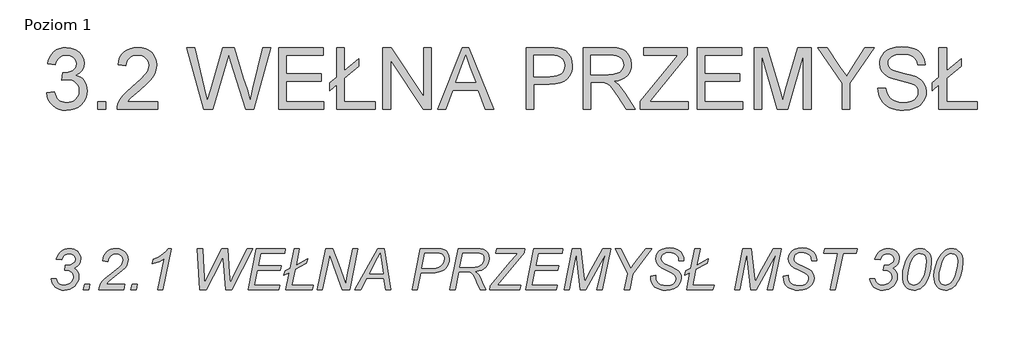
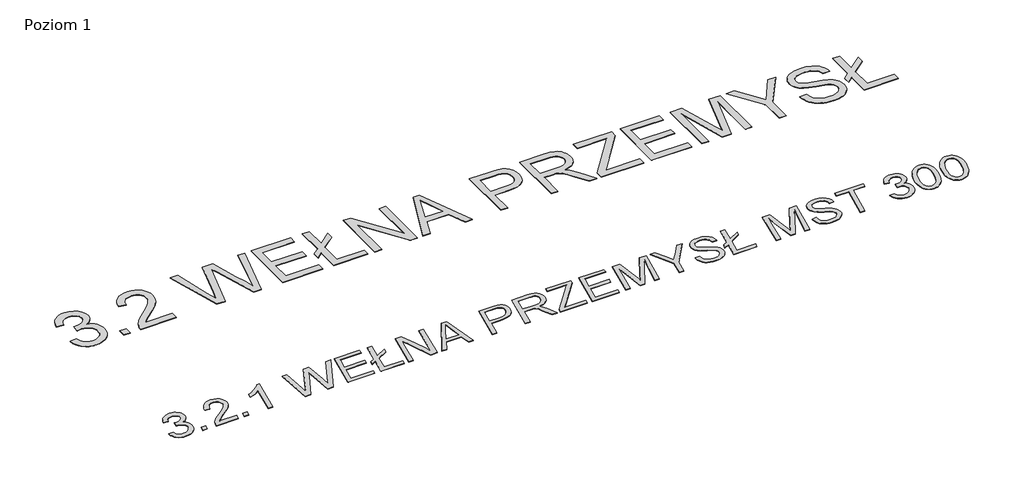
# One storey, part 2 of 8: 2 proxies.
"""IFC4 building model written with IfcOpenShell, lengths in millimetres."""

import ifcopenshell
import ifcopenshell.guid

model = None  # the IFC model being written
_history = None  # IfcOwnerHistory: only IFC2X3 demands one
_inside = {}  # id of a spatial element -> (the spatial element, [elements in it])
_under = {}  # id of a project, library or spatial element -> (it, [spatial elements below it])
_declared = {}  # id of a project -> (the project, [libraries it declares])
_typed = {}  # id of a type object -> (the type object, [elements of that type])
_made_of = {}  # id of a material, layer set ... -> (it, [elements and type objects made of it])


def new_model(schema):
    """Start an empty IFC model of exactly this schema.

    Asked for "IFC4X3", IfcOpenShell would pick the latest addendum, in which some entities
    have other attributes; the version numbers below select the first issue.
    IFC2X3 requires an IfcOwnerHistory on every rooted entity: one is made here for all.
    """
    global model, _history
    if schema == "IFC4X3":
        model = ifcopenshell.file(schema_version=(4, 3, 0, 0))
    else:
        model = ifcopenshell.file(schema=schema)
    _inside.clear()
    _under.clear()
    _declared.clear()
    _typed.clear()
    _made_of.clear()
    _history = None
    if model.schema == "IFC2X3":
        org = make("IfcOrganization", Name="unknown")
        user = make(
            "IfcPersonAndOrganization",
            ThePerson=make("IfcPerson", FamilyName="unknown"),
            TheOrganization=org,
        )
        app = make(
            "IfcApplication",
            ApplicationDeveloper=org,
            Version="unknown",
            ApplicationFullName="unknown",
            ApplicationIdentifier="unknown",
        )
        _history = make(
            "IfcOwnerHistory",
            OwningUser=user,
            OwningApplication=app,
            ChangeAction="ADDED",
            CreationDate=0,
        )
    return model


def make(cls, **values):
    """One entity of the class cls with the attributes given. An attribute that is None is left unset."""
    return model.create_entity(
        cls, **{name: value for name, value in values.items() if value is not None}
    )


def rooted(cls, **values):
    """An entity with a GlobalId (a new one), such as an element, a storey or a relation."""
    return make(cls, GlobalId=ifcopenshell.guid.new(), OwnerHistory=_history, **values)


def si_unit(unit_type, name, prefix=None):
    """IfcSIUnit, for example si_unit("LENGTHUNIT", "METRE", prefix="MILLI")."""
    return make("IfcSIUnit", UnitType=unit_type, Prefix=prefix, Name=name)


def assignment(units):
    """IfcUnitAssignment: the units of a project."""
    return None if units is None else make("IfcUnitAssignment", Units=units)


def point(xyz):
    """IfcCartesianPoint."""
    return None if xyz is None else make("IfcCartesianPoint", Coordinates=xyz)


def direction(xyz):
    """IfcDirection."""
    return None if xyz is None else make("IfcDirection", DirectionRatios=xyz)


def frame(location, z_axis=None, x_axis=None):
    """IfcAxis2Placement3D, a coordinate frame: its origin and axes. An axis left out is left unset."""
    return make(
        "IfcAxis2Placement3D",
        Location=point(location),
        Axis=direction(z_axis),
        RefDirection=direction(x_axis),
    )


def origin():
    """The frame at (0, 0, 0) with its axes left unset."""
    return frame((0.0, 0.0, 0.0))


def origin_with_axes():
    """The frame at (0, 0, 0) with the z axis (0, 0, 1) and the x axis (1, 0, 0) written out."""
    return frame((0.0, 0.0, 0.0), z_axis=(0.0, 0.0, 1.0), x_axis=(1.0, 0.0, 0.0))


def place(relative_to, where):
    """IfcLocalPlacement: puts the frame where relative to a parent placement (None: the world)."""
    return make(
        "IfcLocalPlacement", PlacementRelTo=relative_to, RelativePlacement=where
    )


def context(
    kind, dimensions, precision=None, world=None, true_north=None, identifier=None
):
    """IfcGeometricRepresentationContext, for example the 3D "Model" context."""
    return make(
        "IfcGeometricRepresentationContext",
        ContextIdentifier=identifier,
        ContextType=kind,
        CoordinateSpaceDimension=dimensions,
        Precision=precision,
        WorldCoordinateSystem=world,
        TrueNorth=true_north,
    )


def project(units=None, contexts=None):
    """IfcProject with its units and contexts."""
    return rooted(
        "IfcProject",
        Name="project",
        RepresentationContexts=contexts,
        UnitsInContext=assignment(units),
    )


def spatial(cls, under=None, at=None, **own):
    """A site, building, storey or space (cls), placed at a placement, below another one or the project."""
    s = rooted(cls, ObjectPlacement=at, **own)
    if under is not None:
        _under.setdefault(under.id(), (under, []))[1].append(s)
    return s


def polyline(points):
    """IfcPolyline through the points."""
    return make("IfcPolyline", Points=[point(p) for p in points])


def outline(outer, holes=None, kind="AREA"):
    """IfcArbitraryClosedProfileDef: a profile drawn as a closed curve; with holes, ...WithVoids."""
    if holes is None:
        return make("IfcArbitraryClosedProfileDef", ProfileType=kind, OuterCurve=outer)
    return make(
        "IfcArbitraryProfileDefWithVoids",
        ProfileType=kind,
        OuterCurve=outer,
        InnerCurves=holes,
    )


def extrude(swept, where, along, depth):
    """IfcExtrudedAreaSolid: the profile swept, set in the frame where, extruded along a direction by depth."""
    return make(
        "IfcExtrudedAreaSolid",
        SweptArea=swept,
        Position=where,
        ExtrudedDirection=direction(along),
        Depth=depth,
    )


def shape(context_of_items, identifier, shape_type, items):
    """IfcShapeRepresentation: the items that make up one representation, for example the "Body"."""
    return make(
        "IfcShapeRepresentation",
        ContextOfItems=context_of_items,
        RepresentationIdentifier=identifier,
        RepresentationType=shape_type,
        Items=items,
    )


def made_of(thing, what):
    """Note that an element or type object is made of a material, layer set ...; save() writes the relation."""
    if what is not None:
        _made_of.setdefault(what.id(), (what, []))[1].append(thing)
    return thing


def element(
    cls,
    number,
    at=None,
    inside=None,
    cuts=None,
    type_object=None,
    material=None,
    context=None,
    identifier="Body",
    shape_type=None,
    held_by="IfcProductDefinitionShape",
    body=None,
    shapes=None,
    **own,
):
    """One element of the class cls, such as IfcWall. Its Tag is "e" and its number.

    at: its placement. inside: the storey or other place that contains it. cuts: it is an
    opening in that element (IfcRelVoidsElement). A single representation is given by context,
    identifier, shape_type and body (its items); several are given by shapes. held_by: the class
    of the entity that holds the representations. save() writes the other relations.
    """
    e = rooted(cls, Tag="e%d" % number, ObjectPlacement=at, **own)
    if body is not None:
        shapes = [shape(context, identifier, shape_type, body)]
    if shapes is not None:
        e.Representation = make(held_by, Representations=shapes)
    if inside is not None:
        _inside.setdefault(inside.id(), (inside, []))[1].append(e)
    if cuts is not None:
        rooted(
            "IfcRelVoidsElement", RelatingBuildingElement=cuts, RelatedOpeningElement=e
        )
    if type_object is not None:
        _typed.setdefault(type_object.id(), (type_object, []))[1].append(e)
    return made_of(e, material)


def aggregate(whole, parts):
    """IfcRelAggregates: a whole, such as a stair, and the parts it consists of."""
    return rooted("IfcRelAggregates", RelatingObject=whole, RelatedObjects=parts)


def save(model, path):
    """Write the relations noted so far, then the file.

    IfcRelAggregates (storeys below a building ...), IfcRelContainedInSpatialStructure (elements
    in a storey), IfcRelDefinesByType, IfcRelAssociatesMaterial and IfcRelDeclares: one each for
    every whole, place, type object, material and project.
    """
    for whole, parts in _under.values():
        aggregate(whole, parts)
    for where, things in _inside.values():
        rooted(
            "IfcRelContainedInSpatialStructure",
            RelatedElements=things,
            RelatingStructure=where,
        )
    for kind, things in _typed.values():
        rooted("IfcRelDefinesByType", RelatedObjects=things, RelatingType=kind)
    for what, things in _made_of.values():
        rooted("IfcRelAssociatesMaterial", RelatedObjects=things, RelatingMaterial=what)
    for by, libraries in _declared.values():
        rooted("IfcRelDeclares", RelatingContext=by, RelatedDefinitions=libraries)
    model.write(path)


model = new_model("IFC4")

# Units and contexts
model_context = context("Model", 3, world=origin())
ifc_project = project(units=[si_unit("LENGTHUNIT", "METRE", prefix="MILLI")], contexts=[model_context])

# Site, building, storey
site = spatial("IfcSite", under=ifc_project)
building = spatial("IfcBuilding", under=site)
storey = spatial("IfcBuildingStorey", under=building, Name="Poziom 1", Elevation=0.0)

# Proxies
placement = place(None, origin())
element("IfcBuildingElementProxy", 1, Name="400 mm Arial", ObjectType="400 mm Arial", at=placement, inside=storey, context=model_context, shape_type="SweptSolid", body=[
    extrude(outline(polyline([(-15064.6188022, 3434.5109693), (-15015.6491052, 3434.5109693), (-15006.7542189, 3406.3557846), (-14991.1642568, 3387.501973), (-14969.2617946, 3376.8496293), (-14941.4294083, 3373.298848), (-14906.8541242, 3379.2765943), (-14891.4674054, 3386.748777), (-14877.3479689, 3397.2098329), (-14865.5478979, 3409.6017008), (-14857.1192757, 3422.8663196), (-14852.0621024, 3437.0036894), (-14850.376378, 3452.0138102), (-14855.2303079, 3476.6301691), (-14869.7920977, 3496.536064), (-14892.5314443, 3509.6990611), (-14921.9180446, 3514.0867268), (-14937.3167189, 3514.0867268), (-14929.0913401, 3563.9172193), (-14915.7968325, 3563.0564238), (-14879.559735, 3567.2169352), (-14853.2935181, 3579.6984693), (-14837.3329357, 3598.2294825), (-14832.0127416, 3620.5384314), (-14836.5319177, 3641.0540564), (-14850.0894461, 3658.0308556), (-14870.1985844, 3669.4363954), (-14894.3725901, 3673.238242), (-14918.6422397, 3669.3527069), (-14940.3773249, 3657.6961018), (-14957.1867473, 3638.9379342), (-14966.6794083, 3613.7477117), (-15015.6491052, 3621.6861587), (-15008.4070657, 3644.3328502), (-14998.4451516, 3664.2596672), (-14985.7633631, 3681.4666096), (-14970.3616999, 3695.9536776), (-14952.8319592, 3707.4399169), (-14933.7659376, 3715.6443736), (-14913.1636353, 3720.5670476), (-14891.0250522, 3722.207939), (-14868.0675179, 3720.4564593), (-14847.3994604, 3715.2020204), (-14829.0208796, 3706.4446222), (-14812.9317757, 3694.1842647), (-14799.8554559, 3679.3714096), (-14790.5152274, 3662.9565185), (-14784.9110903, 3644.9395914), (-14783.0430446, 3625.3206283), (-14787.0003126, 3597.3806426), (-14798.8721166, 3573.2425033), (-14818.8019225, 3552.9062107), (-14846.9331961, 3536.3717647), (-14826.8957908, 3520.961135), (-14812.6926658, 3502.6572761), (-14804.2281772, 3481.484099), (-14801.406681, 3457.4655147), (-14803.9382565, 3431.3905857), (-14811.5329831, 3407.1089806), (-14824.1908607, 3384.6206994), (-14841.9118893, 3363.925742), (-14863.1538105, 3346.6022335), (-14886.3743657, 3334.2282988), (-14911.5735548, 3326.803938), (-14938.751378, 3324.3291511), (-14964.7904405, 3326.2061634), (-14988.1992946, 3331.8372003), (-15008.9779405, 3341.2222619), (-15027.126378, 3354.361348), (-15042.0946545, 3370.6327732), (-15053.3328174, 3389.4148518), (-15060.8408666, 3410.7075838), (-15064.6188022, 3434.5109693)])), origin_with_axes(), (0.0, 0.0, 1.0), 5.0),
    extrude(outline(polyline([(-14757.7930446, 3330.4503632), (-14746.3157719, 3379.4200602), (-14697.3460749, 3379.4200602), (-14707.8669083, 3330.4503632), (-14757.7930446, 3330.4503632)])), origin_with_axes(), (0.0, 0.0, 1.0), 5.0),
    extrude(outline(polyline([(-14611.6491052, 3330.4503632), (-14602.5270645, 3362.7062818), (-14590.4639727, 3389.2713859), (-14574.7066336, 3412.3813528), (-14554.5018515, 3434.2718594), (-14468.1831961, 3502.8963859), (-14415.1008098, 3545.1710071), (-14397.430592, 3564.7062818), (-14385.3555446, 3583.9068026), (-14380.6211696, 3597.392598), (-14379.0430446, 3612.0261208), (-14383.932841, 3635.6382183), (-14398.6022302, 3655.4006473), (-14420.3970929, 3668.7788433), (-14446.6633098, 3673.238242), (-14473.0251706, 3668.7190658), (-14495.8721166, 3655.1615374), (-14513.9368657, 3631.6092174), (-14525.9521355, 3597.1056662), (-14574.9218325, 3603.6094541), (-14569.6763602, 3629.6963386), (-14561.0175948, 3652.8660829), (-14548.9455363, 3673.1186871), (-14533.4601848, 3690.4541511), (-14515.2131145, 3704.3464333), (-14494.8558997, 3714.269492), (-14472.3885406, 3720.2233272), (-14447.8110371, 3722.207939), (-14415.1844982, 3718.6810687), (-14385.7859424, 3708.1004579), (-14361.4565153, 3691.1475696), (-14344.0373628, 3668.503867), (-14333.5643515, 3642.5963149), (-14330.0733477, 3615.8518783), (-14331.8427605, 3596.238893), (-14337.1509992, 3576.996528), (-14345.9980636, 3558.1247832), (-14358.3839537, 3539.6236587), (-14392.672306, 3508.0611587), (-14460.7229689, 3455.8395677), (-14515.0009045, 3411.8433556), (-14541.8290295, 3379.4200602), (-14360.6794083, 3379.4200602), (-14370.3394461, 3330.4503632), (-14611.6491052, 3330.4503632)])), origin_with_axes(), (0.0, 0.0, 1.0), 5.0),
    extrude(outline(polyline([(-14304.8233477, 3330.4503632), (-14293.3460749, 3379.4200602), (-14244.376378, 3379.4200602), (-14254.8972113, 3330.4503632), (-14304.8233477, 3330.4503632)])), origin_with_axes(), (0.0, 0.0, 1.0), 5.0),
    extrude(outline(polyline([(-14048.4975901, 3330.4503632), (-13987.2854689, 3625.6075602), (-14009.2536862, 3610.6990611), (-14035.2748155, 3597.3447761), (-14099.4758098, 3575.298848), (-14090.4852795, 3618.1473329), (-14054.7742236, 3634.7774229), (-14019.5652984, 3655.783223), (-13966.626378, 3696.2884314), (-13945.8716431, 3722.207939), (-13917.2741052, 3722.207939), (-13998.6670977, 3330.4503632), (-14048.4975901, 3330.4503632)])), origin_with_axes(), (0.0, 0.0, 1.0), 5.0),
    extrude(outline(polyline([(-13644.4975901, 3330.4503632), (-13668.9824386, 3722.207939), (-13620.0127416, 3722.207939), (-13608.8224007, 3527.0943026), (-13604.5184234, 3452.205098), (-13603.1794083, 3428.1984693), (-13598.5884992, 3397.7836965), (-13553.157628, 3497.3490374), (-13438.3849007, 3722.207939), (-13381.2854689, 3722.207939), (-13363.9739158, 3492.5668405), (-13353.7400143, 3397.7836965), (-13338.2456961, 3435.3717647), (-13307.6396355, 3496.392598), (-13194.0146355, 3722.207939), (-13139.4975901, 3722.207939), (-13343.4104689, 3330.4503632), (-13399.6491052, 3330.4503632), (-13418.2040295, 3566.7865374), (-13427.1945598, 3642.6321814), (-13453.1140674, 3585.6283935), (-13583.5724007, 3330.4503632), (-13644.4975901, 3330.4503632)])), origin_with_axes(), (0.0, 0.0, 1.0), 5.0),
    extrude(outline(polyline([(-13185.406681, 3330.4503632), (-13105.8309234, 3722.207939), (-12830.376378, 3722.207939), (-12836.593234, 3679.3594541), (-13064.7996734, 3679.3594541), (-13089.6670977, 3556.9352117), (-12867.1036507, 3556.9352117), (-12879.3460749, 3514.0867268), (-13098.3706961, 3514.0867268), (-13126.968234, 3373.298848), (-12881.4502416, 3373.298848), (-12890.6320598, 3330.4503632), (-13185.406681, 3330.4503632)])), origin_with_axes(), (0.0, 0.0, 1.0), 5.0),
    extrude(outline(polyline([(-12791.2580068, 3493.0450602), (-12842.6188022, 3465.1170299), (-12830.376378, 3507.9655147), (-12782.936984, 3533.7893783), (-12744.6794083, 3722.207939), (-12694.9445598, 3722.207939), (-12727.0809234, 3564.0128632), (-12616.1339537, 3624.268545), (-12628.376378, 3581.4200602), (-12735.3063022, 3523.364189), (-12765.8167189, 3373.298848), (-12561.0430446, 3373.298848), (-12573.2854689, 3330.4503632), (-12824.2551658, 3330.4503632), (-12791.2580068, 3493.0450602)])), origin_with_axes(), (0.0, 0.0, 1.0), 5.0),
    extrude(outline(polyline([(-12524.3157719, 3330.4503632), (-12444.7400143, 3722.207939), (-12377.406681, 3722.207939), (-12318.1074386, 3570.612295), (-12275.0676658, 3453.831045), (-12253.9303552, 3379.4200602), (-12232.3148249, 3490.5583177), (-12187.2665295, 3722.207939), (-12137.6273249, 3722.207939), (-12213.7599007, 3330.4503632), (-12286.0667189, 3330.4503632), (-12367.0771355, 3555.5005526), (-12406.5780825, 3665.0128632), (-12426.1850901, 3568.3168405), (-12474.5809234, 3330.4503632), (-12524.3157719, 3330.4503632)])), origin_with_axes(), (0.0, 0.0, 1.0), 5.0),
    extrude(outline(polyline([(-12165.3640674, 3330.4503632), (-11946.1481583, 3722.207939), (-11884.1708855, 3722.207939), (-11822.4805446, 3330.4503632), (-11871.9284613, 3330.4503632), (-11887.6140674, 3440.6321814), (-12050.686984, 3440.6321814), (-12110.4644461, 3330.4503632), (-12165.3640674, 3330.4503632)]), holes=[polyline([(-12025.3413401, 3483.4806662), (-11893.6396355, 3483.4806662), (-11907.4123628, 3581.4200602), (-11921.376378, 3679.3594541), (-11964.5117946, 3599.7836965), (-12025.3413401, 3483.4806662)])]), origin_with_axes(), (0.0, 0.0, 1.0), 5.0),
    extrude(outline(polyline([(-11618.376378, 3330.4503632), (-11539.1831961, 3722.207939), (-11375.9189916, 3722.207939), (-11338.8330541, 3719.7690185), (-11312.3157719, 3712.4522571), (-11292.9239632, 3699.2294825), (-11277.2144461, 3679.0725223), (-11266.8131677, 3654.0138102), (-11263.3460749, 3626.0857799), (-11265.8208619, 3601.5889759), (-11273.2452227, 3576.6856852), (-11284.4475191, 3553.7789617), (-11298.2561128, 3535.2718594), (-11313.4634992, 3520.9730905), (-11328.8621734, 3510.691367), (-11362.0506204, 3498.4011208), (-11399.9495314, 3491.801689), (-11438.2788401, 3489.6018783), (-11536.4095219, 3489.6018783), (-11568.5458855, 3330.4503632), (-11618.376378, 3330.4503632)]), holes=[polyline([(-11527.7059234, 3532.4503632), (-11439.7134992, 3532.4503632), (-11395.3466668, 3535.1762155), (-11364.5851848, 3543.3537723), (-11343.0772539, 3557.1145441), (-11326.4710749, 3576.5900412), (-11315.8545977, 3599.6043641), (-11312.3157719, 3623.9816132), (-11314.2286507, 3641.5322761), (-11319.9672871, 3655.5441132), (-11329.1969272, 3666.172546), (-11341.5828174, 3673.5729958), (-11361.9549765, 3677.9128395), (-11395.1434234, 3679.3594541), (-11497.9606583, 3679.3594541), (-11527.7059234, 3532.4503632)])]), origin_with_axes(), (0.0, 0.0, 1.0), 5.0),
    extrude(outline(polyline([(-11257.2248628, 3330.4503632), (-11177.6491052, 3722.207939), (-11012.1850901, 3722.207939), (-10969.1333619, 3720.1276833), (-10937.9175711, 3713.8869162), (-10915.3456015, 3701.9075128), (-10898.2253363, 3682.611348), (-10887.4295266, 3656.6679295), (-10883.8309234, 3624.7467647), (-10885.7677132, 3601.349866), (-10891.5780825, 3580.033223), (-10901.2620314, 3560.7968357), (-10914.8195598, 3543.6407041), (-10932.6989987, 3528.9414262), (-10955.3486791, 3517.0755999), (-10982.768601, 3508.0432254), (-11014.9587643, 3501.8443026), (-10996.2364632, 3487.5216227), (-10982.7267568, 3473.4380526), (-10963.5740579, 3438.2171719), (-10948.5818704, 3401.800742), (-10914.532628, 3330.4503632), (-10967.9975901, 3330.4503632), (-11002.2381204, 3402.1833177), (-11017.3737738, 3438.5758367), (-11034.470128, 3469.707939), (-11048.0635229, 3486.0989191), (-11062.2546924, 3495.6752685), (-11081.2519698, 3500.3020441), (-11109.2636886, 3501.8443026), (-11172.6756204, 3501.8443026), (-11207.4900143, 3330.4503632), (-11257.2248628, 3330.4503632)]), holes=[polyline([(-11163.9720219, 3544.6927874), (-11088.8915295, 3544.6927874), (-11021.0799765, 3544.6927874), (-10994.120341, 3549.6662723), (-10972.5406772, 3558.4655147), (-10955.7671213, 3571.0307373), (-10943.2258098, 3587.3021624), (-10935.4069177, 3606.108152), (-10932.8006204, 3626.2770677), (-10934.7852321, 3642.7397808), (-10940.7390674, 3656.9309503), (-10949.9208855, 3667.8941369), (-10961.5894461, 3674.6729011), (-10979.0205541, 3678.1878158), (-11005.4900143, 3679.3594541), (-11136.6178552, 3679.3594541), (-11163.9720219, 3544.6927874)])]), origin_with_axes(), (0.0, 0.0, 1.0), 5.0),
    extrude(outline(polyline([(-10877.7097113, 3330.4503632), (-10871.5884992, 3367.1776359), (-10674.7532719, 3601.5052874), (-10633.8176658, 3649.9967647), (-10609.2371734, 3679.3594541), (-10644.3384992, 3679.3594541), (-10657.3460749, 3679.3594541), (-10673.031681, 3679.3594541), (-10688.4303552, 3679.3594541), (-10821.6623628, 3679.3594541), (-10812.3849007, 3722.207939), (-10541.0430446, 3722.207939), (-10546.1121734, 3681.176689), (-10756.624484, 3430.6852117), (-10804.8290295, 3373.298848), (-10789.9085749, 3373.298848), (-10580.2570598, 3373.298848), (-10589.5345219, 3330.4503632), (-10877.7097113, 3330.4503632)])), origin_with_axes(), (0.0, 0.0, 1.0), 5.0),
    extrude(outline(polyline([(-10534.9218325, 3330.4503632), (-10455.3460749, 3722.207939), (-10179.8915295, 3722.207939), (-10186.1083855, 3679.3594541), (-10414.3148249, 3679.3594541), (-10439.1822492, 3556.9352117), (-10216.6188022, 3556.9352117), (-10228.8612265, 3514.0867268), (-10447.8858477, 3514.0867268), (-10476.4833855, 3373.298848), (-10230.9653931, 3373.298848), (-10240.1472113, 3330.4503632), (-10534.9218325, 3330.4503632)])), origin_with_axes(), (0.0, 0.0, 1.0), 5.0),
    extrude(outline(polyline([(-10168.3186128, 3330.4503632), (-10091.8991052, 3722.207939), (-10008.4019461, 3722.207939), (-9978.7523249, 3468.9427874), (-9971.9616052, 3404.7657041), (-9932.0780825, 3482.8111587), (-9799.6112265, 3722.207939), (-9722.1396355, 3722.207939), (-9805.2542189, 3330.4503632), (-9855.4672871, 3330.4503632), (-9809.4625522, 3518.6776359), (-9794.2790768, 3590.6975223), (-9768.6225901, 3673.238242), (-9795.9289348, 3630.7484219), (-9819.313878, 3587.2543405), (-9961.5364158, 3330.4503632), (-10011.749484, 3330.4503632), (-10041.1121734, 3581.611348), (-10051.8242946, 3673.238242), (-10070.187931, 3578.8376738), (-10118.6794083, 3330.4503632), (-10168.3186128, 3330.4503632)])), origin_with_axes(), (0.0, 0.0, 1.0), 5.0),
    extrude(outline(polyline([(-9592.2551658, 3330.4503632), (-9561.8403931, 3480.4200602), (-9680.1519461, 3722.207939), (-9626.5913401, 3722.207939), (-9569.2049765, 3609.1568026), (-9532.4777037, 3529.9636208), (-9509.3557814, 3565.973564), (-9476.5259992, 3604.7571814), (-9388.6292189, 3722.207939), (-9329.4256204, 3722.207939), (-9512.9663401, 3476.4986587), (-9542.5203174, 3330.4503632), (-9592.2551658, 3330.4503632)])), origin_with_axes(), (0.0, 0.0, 1.0), 5.0),
    extrude(outline(polyline([(-9341.2854689, 3458.9958177), (-9292.3157719, 3465.1170299), (-9292.8896355, 3450.9617268), (-9290.3072492, 3428.5093121), (-9282.5600901, 3408.017598), (-9268.8590958, 3390.7180005), (-9248.4152037, 3377.8419352), (-9222.3761412, 3369.8437107), (-9191.8896355, 3367.1776359), (-9150.84643, 3372.3424087), (-9134.476372, 3378.7983746), (-9120.8740105, 3387.8367268), (-9102.5462407, 3409.9543878), (-9096.436984, 3434.989189), (-9099.641056, 3452.6594068), (-9109.2532719, 3468.7514996), (-9133.5468325, 3486.3499844), (-9180.4123628, 3509.3045299), (-9242.0070598, 3539.9105905), (-9264.4355636, 3557.987295), (-9280.0733477, 3577.5943026), (-9289.2551658, 3599.4250318), (-9292.3157719, 3624.1729011), (-9288.3345929, 3652.770439), (-9276.391056, 3678.4986587), (-9256.7840484, 3699.9109456), (-9229.8124575, 3715.5606852), (-9197.1859187, 3725.1370346), (-9160.6140674, 3728.3291511), (-9118.2198912, 3724.2284172), (-9083.0468325, 3711.9262155), (-9055.8122208, 3692.7854721), (-9037.2333855, 3668.1691132), (-9026.5451753, 3641.4366321), (-9022.9824386, 3615.9475223), (-9022.9824386, 3607.7221435), (-9071.9521355, 3603.6094541), (-9074.7258098, 3630.676689), (-9081.2893751, 3646.4459835), (-9090.6505257, 3659.5133367), (-9103.4189916, 3670.081992), (-9120.204503, 3678.3551927), (-9140.1103979, 3683.6992979), (-9162.2400143, 3685.4806662), (-9198.6325333, 3680.6506473), (-9213.4214774, 3674.6131236), (-9225.938878, 3666.1605905), (-9238.9942757, 3649.0164143), (-9243.3460749, 3627.0422193), (-9241.5407956, 3613.3651359), (-9236.1249575, 3601.2183556), (-9225.9986554, 3589.9323708), (-9210.061984, 3578.8376738), (-9146.4587643, 3548.1359693), (-9090.220128, 3518.8689238), (-9072.0238685, 3503.2311397), (-9058.561984, 3484.6283935), (-9050.2409613, 3463.1563291), (-9047.4672871, 3438.9105905), (-9052.1777511, 3408.4599513), (-9066.3091431, 3380.4243215), (-9088.7496024, 3356.6448471), (-9118.3872681, 3338.9626738), (-9154.026591, 3327.9875318), (-9194.4720219, 3324.3291511), (-9225.3560477, 3326.1583414), (-9253.2571782, 3331.6459124), (-9278.1754132, 3340.7918641), (-9300.110753, 3353.5961965), (-9318.0170917, 3371.1588149), (-9330.848324, 3394.5796246), (-9338.6044497, 3423.8586255), (-9341.2854689, 3458.9958177)])), origin_with_axes(), (0.0, 0.0, 1.0), 5.0),
    extrude(outline(polyline([(-8965.500431, 3493.0450602), (-9016.8612265, 3465.1170299), (-9004.6188022, 3507.9655147), (-8957.1794083, 3533.7893783), (-8918.9218325, 3722.207939), (-8869.186984, 3722.207939), (-8901.3233477, 3564.0128632), (-8790.376378, 3624.268545), (-8802.6188022, 3581.4200602), (-8909.5487265, 3523.364189), (-8940.0591431, 3373.298848), (-8735.2854689, 3373.298848), (-8747.5278931, 3330.4503632), (-8998.4975901, 3330.4503632), (-8965.500431, 3493.0450602)])), origin_with_axes(), (0.0, 0.0, 1.0), 5.0),
    extrude(outline(polyline([(-8540.0761886, 3330.4503632), (-8463.656681, 3722.207939), (-8380.1595219, 3722.207939), (-8350.5099007, 3468.9427874), (-8343.719181, 3404.7657041), (-8303.8356583, 3482.8111587), (-8171.3688022, 3722.207939), (-8093.8972113, 3722.207939), (-8177.0117946, 3330.4503632), (-8227.2248628, 3330.4503632), (-8181.220128, 3518.6776359), (-8166.0366526, 3590.6975223), (-8140.3801658, 3673.238242), (-8167.6865105, 3630.7484219), (-8191.0714537, 3587.2543405), (-8333.2939916, 3330.4503632), (-8383.5070598, 3330.4503632), (-8412.8697492, 3581.611348), (-8423.5818704, 3673.238242), (-8441.9455068, 3578.8376738), (-8490.436984, 3330.4503632), (-8540.0761886, 3330.4503632)])), origin_with_axes(), (0.0, 0.0, 1.0), 5.0),
    extrude(outline(polyline([(-8074.1945598, 3458.9958177), (-8025.2248628, 3465.1170299), (-8025.7987265, 3450.9617268), (-8023.2163401, 3428.5093121), (-8015.469181, 3408.017598), (-8001.7681867, 3390.7180005), (-7981.3242946, 3377.8419352), (-7955.2852321, 3369.8437107), (-7924.7987265, 3367.1776359), (-7883.755521, 3372.3424087), (-7867.385463, 3378.7983746), (-7853.7831015, 3387.8367268), (-7835.4553316, 3409.9543878), (-7829.3460749, 3434.989189), (-7832.5501469, 3452.6594068), (-7842.1623628, 3468.7514996), (-7866.4559234, 3486.3499844), (-7913.3214537, 3509.3045299), (-7974.9161507, 3539.9105905), (-7997.3446545, 3557.987295), (-8012.9824386, 3577.5943026), (-8022.1642568, 3599.4250318), (-8025.2248628, 3624.1729011), (-8021.2436838, 3652.770439), (-8009.3001469, 3678.4986587), (-7989.6931393, 3699.9109456), (-7962.7215484, 3715.5606852), (-7930.0950096, 3725.1370346), (-7893.5231583, 3728.3291511), (-7851.1289821, 3724.2284172), (-7815.9559234, 3711.9262155), (-7788.7213117, 3692.7854721), (-7770.1424765, 3668.1691132), (-7759.4542662, 3641.4366321), (-7755.8915295, 3615.9475223), (-7755.8915295, 3607.7221435), (-7804.8612265, 3603.6094541), (-7807.6349007, 3630.676689), (-7814.198466, 3646.4459835), (-7823.5596166, 3659.5133367), (-7836.3280825, 3670.081992), (-7853.1135939, 3678.3551927), (-7873.0194888, 3683.6992979), (-7895.1491052, 3685.4806662), (-7931.5416242, 3680.6506473), (-7946.3305683, 3674.6131236), (-7958.8479689, 3666.1605905), (-7971.9033666, 3649.0164143), (-7976.2551658, 3627.0422193), (-7974.4498865, 3613.3651359), (-7969.0340484, 3601.2183556), (-7958.9077463, 3589.9323708), (-7942.9710749, 3578.8376738), (-7879.3678552, 3548.1359693), (-7823.1292189, 3518.8689238), (-7804.9329594, 3503.2311397), (-7791.4710749, 3484.6283935), (-7783.1500522, 3463.1563291), (-7780.376378, 3438.9105905), (-7785.086842, 3408.4599513), (-7799.218234, 3380.4243215), (-7821.6586933, 3356.6448471), (-7851.296359, 3338.9626738), (-7886.9356819, 3327.9875318), (-7927.3811128, 3324.3291511), (-7958.2651386, 3326.1583414), (-7986.1662691, 3331.6459124), (-8011.0845041, 3340.7918641), (-8033.0198439, 3353.5961965), (-8050.9261827, 3371.1588149), (-8063.7574149, 3394.5796246), (-8071.5135406, 3423.8586255), (-8074.1945598, 3458.9958177)])), origin_with_axes(), (0.0, 0.0, 1.0), 5.0),
    extrude(outline(polyline([(-7627.3460749, 3330.4503632), (-7553.2220219, 3679.3594541), (-7688.5581961, 3679.3594541), (-7679.280734, 3722.207939), (-7367.1945598, 3722.207939), (-7376.4720219, 3679.3594541), (-7503.3915295, 3679.3594541), (-7577.5155825, 3330.4503632), (-7627.3460749, 3330.4503632)])), origin_with_axes(), (0.0, 0.0, 1.0), 5.0),
    extrude(outline(polyline([(-7247.8309234, 3434.5109693), (-7198.8612265, 3434.5109693), (-7189.9663401, 3406.3557846), (-7174.376378, 3387.501973), (-7152.4739158, 3376.8496293), (-7124.6415295, 3373.298848), (-7090.0662454, 3379.2765943), (-7074.6795266, 3386.748777), (-7060.5600901, 3397.2098329), (-7048.7600191, 3409.6017008), (-7040.3313969, 3422.8663196), (-7035.2742236, 3437.0036894), (-7033.5884992, 3452.0138102), (-7038.4424291, 3476.6301691), (-7053.0042189, 3496.536064), (-7075.7435655, 3509.6990611), (-7105.1301658, 3514.0867268), (-7120.5288401, 3514.0867268), (-7112.3034613, 3563.9172193), (-7099.0089537, 3563.0564238), (-7062.7718562, 3567.2169352), (-7036.5056393, 3579.6984693), (-7020.5450569, 3598.2294825), (-7015.2248628, 3620.5384314), (-7019.744039, 3641.0540564), (-7033.3015674, 3658.0308556), (-7053.4107056, 3669.4363954), (-7077.5847113, 3673.238242), (-7101.8543609, 3669.3527069), (-7123.5894461, 3657.6961018), (-7140.3988685, 3638.9379342), (-7149.8915295, 3613.7477117), (-7198.8612265, 3621.6861587), (-7191.6191869, 3644.3328502), (-7181.6572729, 3664.2596672), (-7168.9754843, 3681.4666096), (-7153.5738211, 3695.9536776), (-7136.0440804, 3707.4399169), (-7116.9780588, 3715.6443736), (-7096.3757565, 3720.5670476), (-7074.2371734, 3722.207939), (-7051.2796391, 3720.4564593), (-7030.6115816, 3715.2020204), (-7012.2330008, 3706.4446222), (-6996.1438969, 3694.1842647), (-6983.0675771, 3679.3714096), (-6973.7273486, 3662.9565185), (-6968.1232115, 3644.9395914), (-6966.2551658, 3625.3206283), (-6970.2124338, 3597.3806426), (-6982.0842378, 3573.2425033), (-7002.0140437, 3552.9062107), (-7030.1453174, 3536.3717647), (-7010.1079121, 3520.961135), (-6995.9047871, 3502.6572761), (-6987.4402984, 3481.484099), (-6984.6188022, 3457.4655147), (-6987.1503777, 3431.3905857), (-6994.7451043, 3407.1089806), (-7007.4029819, 3384.6206994), (-7025.1240105, 3363.925742), (-7046.3659317, 3346.6022335), (-7069.5864869, 3334.2282988), (-7094.785676, 3326.803938), (-7121.9634992, 3324.3291511), (-7148.0025617, 3326.2061634), (-7171.4114158, 3331.8372003), (-7192.1900617, 3341.2222619), (-7210.3384992, 3354.361348), (-7225.3067757, 3370.6327732), (-7236.5449386, 3389.4148518), (-7244.0529878, 3410.7075838), (-7247.8309234, 3434.5109693)])), origin_with_axes(), (0.0, 0.0, 1.0), 5.0),
    extrude(outline(polyline([(-6935.6491052, 3458.8045299), (-6931.8711696, 3508.6469778), (-6920.5373628, 3559.2784882), (-6904.5887359, 3605.1875791), (-6886.9663401, 3640.8627685), (-6868.1603505, 3668.0973802), (-6848.6609424, 3688.6847382), (-6828.9822018, 3703.6649702), (-6809.6382151, 3714.0782041), (-6789.3975664, 3720.1755052), (-6767.0288401, 3722.207939), (-6745.1562667, 3720.1306721), (-6725.1607056, 3713.8988717), (-6707.0421568, 3703.5125377), (-6690.8006204, 3688.97167), (-6677.4104689, 3670.5094008), (-6667.8460749, 3648.3588623), (-6662.1074386, 3622.5200542), (-6660.1945598, 3592.9929768), (-6665.5027984, 3528.7680715), (-6681.4275143, 3465.2126738), (-6695.1404641, 3430.0635261), (-6711.3162454, 3399.6009314), (-6729.9548581, 3373.8248897), (-6751.0563022, 3352.7354011), (-6768.774342, 3340.3076667), (-6787.687931, 3331.4307136), (-6807.7970693, 3326.1045417), (-6829.1017568, 3324.3291511), (-6850.6545207, 3326.4811397), (-6870.455805, 3332.9371056), (-6888.5056097, 3343.6970488), (-6904.8039348, 3358.7609693), (-6918.2986969, 3377.9256236), (-6927.9378126, 3400.9877685), (-6933.7212821, 3427.9474039), (-6935.6491052, 3458.8045299)]), holes=[polyline([(-6886.6794083, 3451.7268783), (-6883.6905352, 3421.9098802), (-6874.7239158, 3399.4096435), (-6865.6078529, 3387.9861705), (-6854.5191336, 3379.8265469), (-6841.4577582, 3374.9307728), (-6826.4237265, 3373.298848), (-6799.7390674, 3379.2048613), (-6775.5411507, 3396.9229011), (-6760.0229215, 3415.4569032), (-6746.5610371, 3437.8704626), (-6735.1554973, 3464.1635793), (-6725.8063022, 3494.3362533), (-6713.3247681, 3552.6671009), (-6709.1642568, 3599.2098329), (-6713.1932577, 3633.031921), (-6725.2802605, 3655.878867), (-6743.9666952, 3668.8983982), (-6767.7939916, 3673.238242), (-6786.3728268, 3670.9427874), (-6803.6604689, 3664.0564238), (-6819.9438496, 3651.5748897), (-6835.5099007, 3632.4939238), (-6855.7146829, 3593.1842647), (-6873.0979689, 3538.1889996), (-6883.2840484, 3489.7453443), (-6886.6794083, 3451.7268783)])]), origin_with_axes(), (0.0, 0.0, 1.0), 5.0),
    extrude(outline(polyline([(-6635.7097113, 3458.8045299), (-6631.9317757, 3508.6469778), (-6620.5979689, 3559.2784882), (-6604.649342, 3605.1875791), (-6587.0269461, 3640.8627685), (-6568.2209566, 3668.0973802), (-6548.7215484, 3688.6847382), (-6529.0428079, 3703.6649702), (-6509.6988211, 3714.0782041), (-6489.4581725, 3720.1755052), (-6467.0894461, 3722.207939), (-6445.2168728, 3720.1306721), (-6425.2213117, 3713.8988717), (-6407.1027629, 3703.5125377), (-6390.8612265, 3688.97167), (-6377.4710749, 3670.5094008), (-6367.906681, 3648.3588623), (-6362.1680446, 3622.5200542), (-6360.2551658, 3592.9929768), (-6365.5634045, 3528.7680715), (-6381.4881204, 3465.2126738), (-6395.2010702, 3430.0635261), (-6411.3768515, 3399.6009314), (-6430.0154641, 3373.8248897), (-6451.1169083, 3352.7354011), (-6468.834948, 3340.3076667), (-6487.7485371, 3331.4307136), (-6507.8576753, 3326.1045417), (-6529.1623628, 3324.3291511), (-6550.7151268, 3326.4811397), (-6570.5164111, 3332.9371056), (-6588.5662158, 3343.6970488), (-6604.8645408, 3358.7609693), (-6618.3593029, 3377.9256236), (-6627.9984187, 3400.9877685), (-6633.7818881, 3427.9474039), (-6635.7097113, 3458.8045299)]), holes=[polyline([(-6586.7400143, 3451.7268783), (-6583.7511412, 3421.9098802), (-6574.7845219, 3399.4096435), (-6565.6684589, 3387.9861705), (-6554.5797397, 3379.8265469), (-6541.5183642, 3374.9307728), (-6526.4843325, 3373.298848), (-6499.7996734, 3379.2048613), (-6475.6017568, 3396.9229011), (-6460.0835276, 3415.4569032), (-6446.6216431, 3437.8704626), (-6435.2161033, 3464.1635793), (-6425.8669083, 3494.3362533), (-6413.3853742, 3552.6671009), (-6409.2248628, 3599.2098329), (-6413.2538638, 3633.031921), (-6425.3408666, 3655.878867), (-6444.0273013, 3668.8983982), (-6467.8545977, 3673.238242), (-6486.4334329, 3670.9427874), (-6503.7210749, 3664.0564238), (-6520.0044556, 3651.5748897), (-6535.5705068, 3632.4939238), (-6555.775289, 3593.1842647), (-6573.1585749, 3538.1889996), (-6583.3446545, 3489.7453443), (-6586.7400143, 3451.7268783)])]), origin_with_axes(), (0.0, 0.0, 1.0), 5.0),
])
element("IfcBuildingElementProxy", 2, Name="600 mm Arial", ObjectType="600 mm Arial", at=placement, inside=storey, context=model_context, shape_type="SweptSolid", body=[
    extrude(outline(polyline([(-15109.6367066, 5208.1027492), (-15035.7905528, 5217.3335184), (-15019.2581009, 5170.9272684), (-15008.1117667, 5153.3761867), (-14995.0453605, 5139.5931338), (-14979.7614062, 5129.1814751), (-14961.9624278, 5121.7445761), (-14941.6484254, 5117.2824367), (-14918.8193989, 5115.7950569), (-14892.0645913, 5117.8413309), (-14868.1943989, 5123.980153), (-14847.208822, 5134.2115232), (-14829.1078605, 5148.5354415), (-14814.5315384, 5165.8791915), (-14804.1198797, 5185.1700569), (-14797.8728845, 5206.4080376), (-14795.7905528, 5229.5931338), (-14797.8548557, 5251.6739631), (-14804.0477643, 5271.7626049), (-14814.3692788, 5289.8590593), (-14828.8193989, 5305.9633261), (-14846.4516105, 5319.1829775), (-14866.3193989, 5328.6255857), (-14888.4227643, 5334.2911506), (-14912.7617066, 5336.1796723), (-14936.0910336, 5334.1604415), (-14964.5405528, 5328.1027492), (-14956.3193989, 5401.948903), (-14944.4924759, 5401.0835184), (-14900.2496874, 5406.3839992), (-14860.6943989, 5422.2854415), (-14844.4143509, 5434.3106819), (-14832.7857451, 5449.1844799), (-14825.8085816, 5466.9068357), (-14823.4828605, 5487.4777492), (-14825.1685576, 5504.1769679), (-14830.2256489, 5519.370778), (-14838.6541345, 5533.0591795), (-14850.4540143, 5545.2421723), (-14864.9131489, 5555.2436747), (-14881.3193989, 5562.3876049), (-14919.9732451, 5568.1027492), (-14958.6992066, 5562.3335184), (-14975.411947, 5555.1219799), (-14990.3578605, 5545.0258261), (-15003.1673557, 5532.0450569), (-15013.4708413, 5516.1796723), (-15021.2683172, 5497.4296723), (-15026.5597836, 5475.7950569), (-15100.4059374, 5485.0258261), (-15091.6529326, 5520.2812348), (-15078.6631489, 5551.3359223), (-15061.4365864, 5578.1898886), (-15039.9732451, 5600.8431338), (-15014.9492066, 5618.8269078), (-14987.0405528, 5631.6724607), (-14956.2472836, 5639.3797924), (-14922.5693989, 5641.948903), (-14876.1451201, 5636.8827973), (-14833.5068989, 5621.6844799), (-14797.5573797, 5597.7061146), (-14771.1992066, 5566.2998646), (-14755.0273316, 5530.1159703), (-14749.6367066, 5491.8046723), (-14754.7568989, 5456.1075569), (-14770.1174759, 5423.7277492), (-14795.5020913, 5396.1436146), (-14830.6943989, 5374.8335184), (-14806.0850239, 5367.1352011), (-14784.4684374, 5356.1556338), (-14765.8446393, 5341.8948165), (-14750.2136297, 5324.3527492), (-14737.8458413, 5303.9621242), (-14729.0117066, 5281.1556338), (-14723.7112259, 5255.933278), (-14721.9443989, 5228.2950569), (-14725.4780528, 5190.8311146), (-14736.0790143, 5156.323903), (-14753.7472836, 5124.7734223), (-14778.4828605, 5096.1796723), (-14808.6180768, 5072.4537107), (-14842.4852643, 5055.5065953), (-14880.084423, 5045.3383261), (-14921.4155528, 5041.948903), (-14958.771322, 5044.8425328), (-14992.8097836, 5053.5234223), (-15023.5309374, 5067.9915713), (-15050.9347836, 5088.2469799), (-15073.912548, 5113.0997444), (-15091.3554566, 5141.3599607), (-15103.2635095, 5173.027629), (-15109.6367066, 5208.1027492)])), origin_with_axes(), (0.0, 0.0, 1.0), 5.0),
    extrude(outline(polyline([(-14620.4059374, 5051.1796723), (-14620.4059374, 5125.0258261), (-14546.5597836, 5125.0258261), (-14546.5597836, 5051.1796723), (-14620.4059374, 5051.1796723)])), origin_with_axes(), (0.0, 0.0, 1.0), 5.0),
    extrude(outline(polyline([(-14048.0982451, 5125.0258261), (-14048.0982451, 5051.1796723), (-14435.7905528, 5051.1796723), (-14434.1679566, 5077.1772684), (-14427.8578605, 5102.0931338), (-14409.6487259, 5141.8827973), (-14383.0020913, 5180.4825569), (-14344.4564182, 5220.8852011), (-14290.5501682, 5266.0835184), (-14210.8626682, 5336.8647684), (-14163.0501682, 5389.1123646), (-14149.1048557, 5410.4585184), (-14139.1439182, 5431.5162107), (-14133.1673557, 5452.2854415), (-14131.1751682, 5472.7662107), (-14133.0546754, 5492.03454), (-14138.693197, 5509.7433742), (-14148.0907331, 5525.8927131), (-14161.2472836, 5540.4825569), (-14177.4326802, 5552.566391), (-14195.9167547, 5561.1977011), (-14216.6995071, 5566.3764872), (-14239.7809374, 5568.1027492), (-14264.0973437, 5566.4170521), (-14285.8446393, 5561.3599607), (-14305.0228244, 5552.9314751), (-14321.6318989, 5541.1315953), (-14335.0678965, 5526.3569559), (-14344.7268509, 5509.0041915), (-14350.6087619, 5489.0733021), (-14352.7136297, 5466.5642876), (-14426.5597836, 5475.7950569), (-14420.2091225, 5513.9170521), (-14408.6571393, 5547.2253453), (-14391.903834, 5575.7199367), (-14369.9492066, 5599.4008261), (-14343.2980648, 5618.0156098), (-14312.4552163, 5631.3118838), (-14277.420661, 5639.2896482), (-14238.1943989, 5641.948903), (-14198.6165744, 5638.9921723), (-14163.3927163, 5630.1219799), (-14132.5228244, 5615.3383261), (-14106.0068989, 5594.6412107), (-14084.7103244, 5569.5630857), (-14069.4984855, 5541.636403), (-14060.3713821, 5510.8611626), (-14057.3290143, 5477.2373646), (-14060.6102643, 5441.9188549), (-14070.4540143, 5407.2133261), (-14087.9239663, 5371.9128453), (-14114.083822, 5334.8094799), (-14155.7845432, 5290.5126049), (-14219.8770913, 5233.6315953), (-14304.8290143, 5162.5979415), (-14338.146322, 5125.0258261), (-14048.0982451, 5125.0258261)])), origin_with_axes(), (0.0, 0.0, 1.0), 5.0),
    extrude(outline(polyline([(-13610.0693989, 5051.1796723), (-13771.1751682, 5641.948903), (-13695.021322, 5641.948903), (-13601.5597836, 5253.6796723), (-13572.7136297, 5133.823903), (-13541.8482451, 5239.8335184), (-13424.7328605, 5641.948903), (-13314.9732451, 5641.948903), (-13229.8770913, 5350.4585184), (-13193.4227643, 5242.2854415), (-13166.5597836, 5133.823903), (-13138.5790143, 5250.2181338), (-13044.2520913, 5641.948903), (-12968.0982451, 5641.948903), (-13129.3482451, 5051.1796723), (-13208.2424759, 5051.1796723), (-13349.8770913, 5506.948903), (-13369.6367066, 5570.5546723), (-13391.8482451, 5493.9681338), (-13520.9347836, 5051.1796723), (-13610.0693989, 5051.1796723)])), origin_with_axes(), (0.0, 0.0, 1.0), 5.0),
    extrude(outline(polyline([(-12894.2520913, 5051.1796723), (-12894.2520913, 5641.948903), (-12469.6367066, 5641.948903), (-12469.6367066, 5568.1027492), (-12820.4059374, 5568.1027492), (-12820.4059374, 5392.7181338), (-12488.0982451, 5392.7181338), (-12488.0982451, 5318.8719799), (-12820.4059374, 5318.8719799), (-12820.4059374, 5125.0258261), (-12460.4059374, 5125.0258261), (-12460.4059374, 5051.1796723), (-12894.2520913, 5051.1796723)])), origin_with_axes(), (0.0, 0.0, 1.0), 5.0),
    extrude(outline(polyline([(-12340.4059374, 5284.9777492), (-12405.021322, 5231.1796723), (-12405.021322, 5305.0258261), (-12340.4059374, 5358.823903), (-12340.4059374, 5641.948903), (-12266.5597836, 5641.948903), (-12266.5597836, 5420.4104415), (-12128.0982451, 5535.7950569), (-12128.0982451, 5461.948903), (-12266.5597836, 5346.5642876), (-12266.5597836, 5125.0258261), (-11971.1751682, 5125.0258261), (-11971.1751682, 5051.1796723), (-12340.4059374, 5051.1796723), (-12340.4059374, 5284.9777492)])), origin_with_axes(), (0.0, 0.0, 1.0), 5.0),
    extrude(outline(polyline([(-11897.3290143, 5051.1796723), (-11897.3290143, 5641.948903), (-11818.2905528, 5641.948903), (-11509.6367066, 5173.9200569), (-11509.6367066, 5641.948903), (-11435.7905528, 5641.948903), (-11435.7905528, 5051.1796723), (-11514.8290143, 5051.1796723), (-11823.4828605, 5519.3527492), (-11823.4828605, 5051.1796723), (-11897.3290143, 5051.1796723)])), origin_with_axes(), (0.0, 0.0, 1.0), 5.0),
    extrude(outline(polyline([(-11375.3578605, 5051.1796723), (-11139.5405528, 5641.948903), (-11076.6559374, 5641.948903), (-10840.8386297, 5051.1796723), (-10918.8674759, 5051.1796723), (-10986.5117066, 5235.7950569), (-11229.8290143, 5235.7950569), (-11297.3290143, 5051.1796723), (-11375.3578605, 5051.1796723)]), holes=[polyline([(-11202.7136297, 5309.6412107), (-11013.4828605, 5309.6412107), (-11066.7040143, 5454.8815953), (-11108.0982451, 5568.1027492), (-11144.8770913, 5467.573903), (-11202.7136297, 5309.6412107)])]), origin_with_axes(), (0.0, 0.0, 1.0), 5.0),
    extrude(outline(polyline([(-10531.1751682, 5051.1796723), (-10531.1751682, 5641.948903), (-10312.2328605, 5641.948903), (-10261.2472836, 5640.542653), (-10223.9636297, 5636.323903), (-10184.6066586, 5625.8130857), (-10152.208822, 5608.7037107), (-10126.1210816, 5584.2205376), (-10105.6943989, 5551.5883261), (-10092.4972836, 5513.0967396), (-10088.0982451, 5471.0354415), (-10091.0684975, 5434.7704174), (-10099.9792547, 5401.4080376), (-10114.8305167, 5370.9483021), (-10135.6222836, 5343.3912107), (-10164.1664542, 5320.5486626), (-10202.2749278, 5304.2325569), (-10249.9477042, 5294.4428934), (-10307.1847836, 5291.1796723), (-10457.3290143, 5291.1796723), (-10457.3290143, 5051.1796723), (-10531.1751682, 5051.1796723)]), holes=[polyline([(-10457.3290143, 5365.0258261), (-10302.8578605, 5365.0258261), (-10267.3410336, 5366.7205376), (-10237.3770913, 5371.8046723), (-10212.9660336, 5380.2782299), (-10194.1078605, 5392.1412107), (-10180.0363461, 5407.0781098), (-10169.9852643, 5424.7734223), (-10163.9546153, 5445.2271482), (-10161.9443989, 5468.4392876), (-10166.6859855, 5501.6123646), (-10180.9107451, 5529.5931338), (-10202.8518509, 5550.6508261), (-10230.7424759, 5563.0546723), (-10259.2280528, 5566.8407299), (-10304.5886297, 5568.1027492), (-10457.3290143, 5568.1027492), (-10457.3290143, 5365.0258261)])]), origin_with_axes(), (0.0, 0.0, 1.0), 5.0),
    extrude(outline(polyline([(-9986.5597836, 5051.1796723), (-9986.5597836, 5641.948903), (-9731.9924759, 5641.948903), (-9663.5730047, 5637.964528), (-9613.7953605, 5626.011403), (-9594.5856249, 5616.5102011), (-9577.4131489, 5603.9440953), (-9562.2779326, 5588.3130857), (-9549.1799759, 5569.6171723), (-9538.6105648, 5548.8614631), (-9531.0609855, 5527.0510665), (-9525.021322, 5480.2662107), (-9527.5228244, 5449.9236626), (-9535.0273316, 5422.0690953), (-9547.5348437, 5396.7025088), (-9565.0453605, 5373.823903), (-9587.7842427, 5354.1634463), (-9615.9768509, 5338.4513069), (-9649.623185, 5326.6874848), (-9688.7232451, 5318.8719799), (-9664.3843028, 5302.9705376), (-9646.7520913, 5287.2854415), (-9586.896322, 5211.2758261), (-9488.3867066, 5051.1796723), (-9574.2040143, 5051.1796723), (-9651.0790143, 5173.6315953), (-9706.6078605, 5254.6892876), (-9727.2508893, 5278.3251049), (-9745.6222836, 5292.9825569), (-9780.7424759, 5307.0450569), (-9823.5790143, 5309.6412107), (-9912.7136297, 5309.6412107), (-9912.7136297, 5051.1796723), (-9986.5597836, 5051.1796723)]), holes=[polyline([(-9912.7136297, 5383.4873646), (-9747.4251682, 5383.4873646), (-9699.9552163, 5386.1015473), (-9663.1222836, 5393.9440953), (-9635.3939182, 5407.5378453), (-9615.2376682, 5427.4056338), (-9602.9600239, 5451.4380857), (-9598.8674759, 5477.5258261), (-9600.8190985, 5496.4110424), (-9606.6739663, 5513.5474607), (-9616.4320792, 5528.9350809), (-9630.0934374, 5542.573903), (-9647.9735456, 5553.7427732), (-9670.3879086, 5561.7205376), (-9697.3365263, 5566.5071963), (-9728.8193989, 5568.1027492), (-9912.7136297, 5568.1027492), (-9912.7136297, 5383.4873646)])]), origin_with_axes(), (0.0, 0.0, 1.0), 5.0),
    extrude(outline(polyline([(-9441.9443989, 5051.1796723), (-9441.9443989, 5127.7662107), (-9139.7809374, 5497.7181338), (-9082.3770913, 5568.1027492), (-9405.021322, 5568.1027492), (-9405.021322, 5641.948903), (-8989.6367066, 5641.948903), (-8989.6367066, 5568.1027492), (-9320.3578605, 5163.2469799), (-9351.5117066, 5125.0258261), (-8980.4059374, 5125.0258261), (-8980.4059374, 5051.1796723), (-9441.9443989, 5051.1796723)])), origin_with_axes(), (0.0, 0.0, 1.0), 5.0),
    extrude(outline(polyline([(-8897.3290143, 5051.1796723), (-8897.3290143, 5641.948903), (-8472.7136297, 5641.948903), (-8472.7136297, 5568.1027492), (-8823.4828605, 5568.1027492), (-8823.4828605, 5392.7181338), (-8491.1751682, 5392.7181338), (-8491.1751682, 5318.8719799), (-8823.4828605, 5318.8719799), (-8823.4828605, 5125.0258261), (-8463.4828605, 5125.0258261), (-8463.4828605, 5051.1796723), (-8897.3290143, 5051.1796723)])), origin_with_axes(), (0.0, 0.0, 1.0), 5.0),
    extrude(outline(polyline([(-8352.7136297, 5051.1796723), (-8352.7136297, 5641.948903), (-8225.646322, 5641.948903), (-8104.7809374, 5225.5546723), (-8080.4059374, 5138.5835184), (-8054.0117066, 5232.7662107), (-7935.1655528, 5641.948903), (-7808.0982451, 5641.948903), (-7808.0982451, 5051.1796723), (-7881.9443989, 5051.1796723), (-7881.9443989, 5568.1027492), (-8030.3578605, 5051.1796723), (-8130.4540143, 5051.1796723), (-8278.8674759, 5568.1027492), (-8278.8674759, 5051.1796723), (-8352.7136297, 5051.1796723)])), origin_with_axes(), (0.0, 0.0, 1.0), 5.0),
    extrude(outline(polyline([(-7512.7136297, 5051.1796723), (-7512.7136297, 5301.4200569), (-7743.4828605, 5641.948903), (-7656.3674759, 5641.948903), (-7533.1943989, 5460.073903), (-7470.1655528, 5367.3335184), (-7406.9924759, 5466.7085184), (-7295.2136297, 5641.948903), (-7208.0982451, 5641.948903), (-7438.8674759, 5301.4200569), (-7438.8674759, 5051.1796723), (-7512.7136297, 5051.1796723)])), origin_with_axes(), (0.0, 0.0, 1.0), 5.0),
    extrude(outline(polyline([(-7171.1751682, 5254.2565953), (-7097.3290143, 5254.2565953), (-7088.8554566, 5213.277028), (-7073.5309374, 5180.3383261), (-7049.6246874, 5154.1964992), (-7015.4059374, 5133.6075569), (-6973.5790143, 5120.2481819), (-6926.8482451, 5115.7950569), (-6885.7064182, 5119.1664511), (-6849.6847836, 5129.2806338), (-6820.4960816, 5145.2902492), (-6799.8530528, 5166.3479415), (-6787.5754086, 5190.5246242), (-6783.4828605, 5215.8912107), (-6786.5477643, 5240.6087588), (-6795.7424759, 5261.9729415), (-6814.4203605, 5280.2001049), (-6845.9347836, 5295.5065953), (-6953.458822, 5323.7037107), (-7024.0417547, 5342.3635665), (-7069.2040143, 5360.1219799), (-7105.9648316, 5384.9657299), (-7132.0165143, 5415.073903), (-7147.5393509, 5449.7974607), (-7152.7136297, 5488.4873646), (-7151.1135696, 5510.4780497), (-7146.3133893, 5531.7385665), (-7138.3130888, 5552.268915), (-7127.1126682, 5572.0690953), (-7112.8383292, 5590.3323165), (-7095.6162739, 5606.2517876), (-7075.4465023, 5619.8275088), (-7052.3290143, 5631.0594799), (-7000.3698797, 5646.1496242), (-6942.8578605, 5651.1796723), (-6880.5501682, 5645.9152492), (-6826.0309374, 5630.1219799), (-6802.1787739, 5618.3581578), (-6781.2472836, 5604.1243838), (-6763.2364663, 5587.4206578), (-6748.146322, 5568.2469799), (-6736.0940384, 5547.1622444), (-6727.1968028, 5524.7253453), (-6721.4546153, 5500.9362828), (-6718.8674759, 5475.7950569), (-6792.7136297, 5475.7950569), (-6797.6535336, 5499.3587588), (-6806.271322, 5519.8575569), (-6818.5669951, 5537.2914511), (-6834.5405528, 5551.6604415), (-6854.4894711, 5562.8924126), (-6878.7112259, 5570.9152492), (-6907.2058172, 5575.7289511), (-6939.9732451, 5577.3335184), (-6973.7863461, 5575.7469799), (-7002.677572, 5570.9873646), (-7026.646923, 5563.0546723), (-7045.6943989, 5551.948903), (-7060.2076201, 5538.5985424), (-7070.5742066, 5523.9320761), (-7076.7941586, 5507.949504), (-7078.8674759, 5490.6508261), (-7072.990072, 5462.2734223), (-7055.3578605, 5439.448903), (-7039.1679566, 5429.2986626), (-7013.6751682, 5419.0402492), (-6934.7809374, 5398.198903), (-6853.3626682, 5378.4032299), (-6804.1078605, 5361.1315953), (-6762.0105047, 5334.3407299), (-6745.7349638, 5318.5925328), (-6732.6415143, 5301.2758261), (-6722.576911, 5282.480754), (-6715.3879086, 5262.2974607), (-6709.6367066, 5217.7662107), (-6711.2908533, 5194.6667516), (-6716.2532932, 5172.2433742), (-6724.5240263, 5150.4960785), (-6736.1030528, 5129.4248646), (-6750.787548, 5109.8455376), (-6768.3746874, 5092.573903), (-6788.8644711, 5077.6099607), (-6812.2568989, 5064.9537107), (-6837.8713821, 5054.8891073), (-6865.0273316, 5047.7001049), (-6923.9636297, 5041.948903), (-6961.7385696, 5043.4993838), (-6996.3133893, 5048.1508261), (-7027.6880888, 5055.9032299), (-7055.8626682, 5066.7565953), (-7081.0084013, 5080.7289511), (-7103.2965624, 5097.8383261), (-7122.7271513, 5118.0847203), (-7139.3001682, 5141.4681338), (-7152.6505288, 5167.2313549), (-7162.4131489, 5194.6171723), (-7168.5880288, 5223.6255857), (-7171.1751682, 5254.2565953)])), origin_with_axes(), (0.0, 0.0, 1.0), 5.0),
    extrude(outline(polyline([(-6589.6367066, 5284.9777492), (-6654.2520913, 5231.1796723), (-6654.2520913, 5305.0258261), (-6589.6367066, 5358.823903), (-6589.6367066, 5641.948903), (-6515.7905528, 5641.948903), (-6515.7905528, 5420.4104415), (-6377.3290143, 5535.7950569), (-6377.3290143, 5461.948903), (-6515.7905528, 5346.5642876), (-6515.7905528, 5125.0258261), (-6220.4059374, 5125.0258261), (-6220.4059374, 5051.1796723), (-6589.6367066, 5051.1796723), (-6589.6367066, 5284.9777492)])), origin_with_axes(), (0.0, 0.0, 1.0), 5.0),
])

save(model, "model.ifc")
